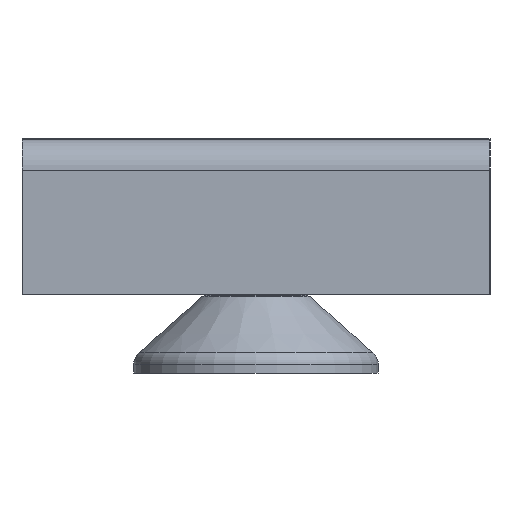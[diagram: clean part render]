
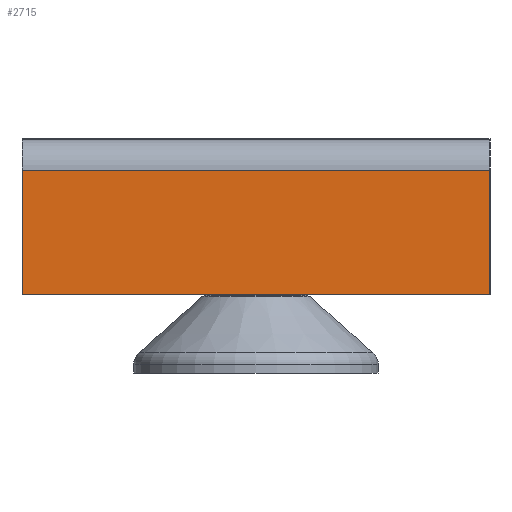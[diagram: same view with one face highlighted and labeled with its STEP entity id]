
A CAD part, left-side view. The second image highlights one B-rep face of the part: STEP entity #2715.
In plain terms, the highlighted planar face has unit normal (-1, 0, 0).
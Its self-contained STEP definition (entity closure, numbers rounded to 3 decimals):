
#331=ORIENTED_EDGE('',*,*,#827,.T.);
#332=ORIENTED_EDGE('',*,*,#828,.F.);
#333=ORIENTED_EDGE('',*,*,#829,.F.);
#334=ORIENTED_EDGE('',*,*,#825,.T.);
#825=EDGE_CURVE('',#1064,#1063,#1252,.T.);
#827=EDGE_CURVE('',#1063,#1065,#1253,.T.);
#828=EDGE_CURVE('',#1066,#1065,#1254,.T.);
#829=EDGE_CURVE('',#1064,#1066,#1255,.T.);
#1063=VERTEX_POINT('',#3812);
#1064=VERTEX_POINT('',#3814);
#1065=VERTEX_POINT('',#3818);
#1066=VERTEX_POINT('',#3820);
#1252=LINE('',#3813,#1410);
#1253=LINE('',#3817,#1411);
#1254=LINE('',#3819,#1412);
#1255=LINE('',#3821,#1413);
#1410=VECTOR('',#3199,1000.);
#1411=VECTOR('',#3204,1000.);
#1412=VECTOR('',#3205,1000.);
#1413=VECTOR('',#3206,1000.);
#1496=EDGE_LOOP('',(#331,#332,#333,#334));
#1672=FACE_BOUND('',#1496,.T.);
#1834=PLANE('',#2863);
#2715=ADVANCED_FACE('',(#1672),#1834,.F.);
#2863=AXIS2_PLACEMENT_3D('',#3816,#3202,#3203);
#3199=DIRECTION('',(0.,1.,0.));
#3202=DIRECTION('',(1.,0.,0.));
#3203=DIRECTION('',(0.,0.,-1.));
#3204=DIRECTION('',(0.,0.,-1.));
#3205=DIRECTION('',(0.,1.,0.));
#3206=DIRECTION('',(0.,0.,-1.));
#3812=CARTESIAN_POINT('',(-340.,45.,-6.));
#3813=CARTESIAN_POINT('',(-340.,-45.,-6.));
#3814=CARTESIAN_POINT('',(-340.,-45.,-6.));
#3816=CARTESIAN_POINT('',(-340.,-45.,-6.));
#3817=CARTESIAN_POINT('',(-340.,45.,-6.));
#3818=CARTESIAN_POINT('',(-340.,45.,-30.));
#3819=CARTESIAN_POINT('',(-340.,-45.,-30.));
#3820=CARTESIAN_POINT('',(-340.,-45.,-30.));
#3821=CARTESIAN_POINT('',(-340.,-45.,-6.));
